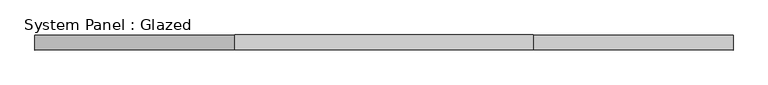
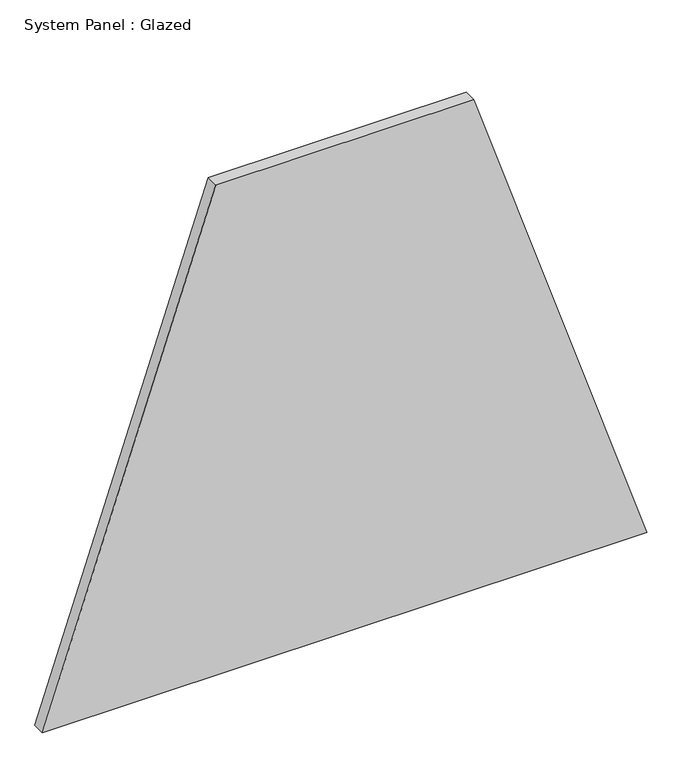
"""IFC4 building model written with IfcOpenShell, lengths in millimetres: plate geometry, System Panel : Glazed."""

from ifc_helpers import new_model, si_unit, frame, origin, place, context, project, spatial, polyline, outline, extrude, source, transform, mapped, element, save


def system_panel_glazed_54dd6e29(model_context):
    return source(origin(), model_context, "Body", "SweptSolid", [
        extrude(outline(polyline([(0.0, -589.5463394), (0.0, 589.5463394), (1011.8817867, 251.6743374), (1011.8817867, -251.6743374), (0.0, -589.5463394)])), frame((0.0, -44.45, 0.0), z_axis=(0.0, 1.0, 0.0), x_axis=(0.0, 0.0, 1.0)), (0.0, 0.0, 1.0), 25.4),
    ])


if __name__ == "__main__":
    model = new_model("IFC4")
    model_context = context("Model", 3, world=origin())
    ifc_project = project(units=[si_unit("LENGTHUNIT", "METRE", prefix="MILLI")], contexts=[model_context])
    site = spatial("IfcSite", under=ifc_project)
    building = spatial("IfcBuilding", under=site)
    placement = place(None, origin())
    system_panel_glazed_shape = system_panel_glazed_54dd6e29(model_context)
    element("IfcPlate", 1, ObjectType="System Panel : Glazed", at=placement, inside=building, context=model_context, shape_type="MappedRepresentation", body=[
        mapped(system_panel_glazed_shape, transform((0.0, 0.0, 0.0), x_axis=(1.0, 0.0, 0.0), y_axis=(0.0, 1.0, 0.0), z_axis=(0.0, 0.0, 1.0))),
    ])
    save(model, "model.ifc")
